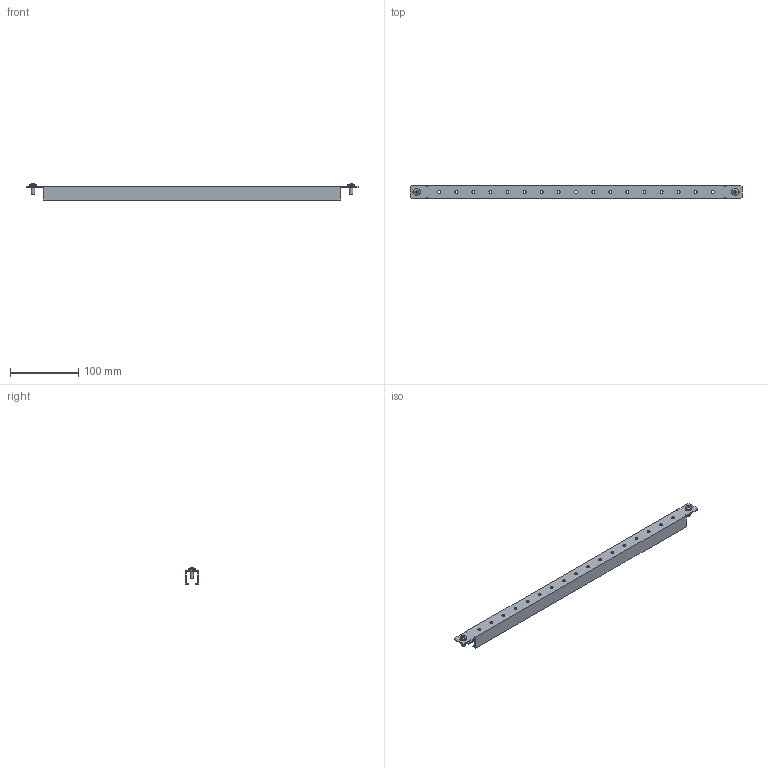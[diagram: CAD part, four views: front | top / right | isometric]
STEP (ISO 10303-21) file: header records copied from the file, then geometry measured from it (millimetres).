
FILE_DESCRIPTION(('Open CASCADE Model'),'2;1');
FILE_NAME('Open CASCADE Shape Model','2025-02-21T13:53:34',('Author'),( 'Open CASCADE'),'Open CASCADE STEP processor 7.8','Open CASCADE 7.8' ,'Unknown');
FILE_SCHEMA(('AUTOMOTIVE_DESIGN { 1 0 10303 214 1 1 1 1 }'));
Length unit declared in the file: millimetre
Products named in the file (3): Compound1; Solid1; Solid2
Assembly tree (3 placements, depth 2):
  Compound1
    Solid1
    Solid2  x2
Bounding box: 485 x 20 x 23.56 mm (x, y, z)
Volume: 44196.2 mm3; surface area: 60744.9 mm2
Topology: 3 solids, 3 shells, 103 faces, 267 edges, 172 vertices
Faces by surface type: plane 66, cylinder 25, torus 4, cone 4, sphere 2, bspline 2
Full cylindrical faces by diameter (mm): 4.2 x17, 5 x2, 9.5 x2
Entity records: 3178 total; most frequent: CARTESIAN_POINT 871, ORIENTED_EDGE 472, DIRECTION 440, EDGE_CURVE 236, VERTEX_POINT 155, LINE 148, VECTOR 148, AXIS2_PLACEMENT_3D 146
